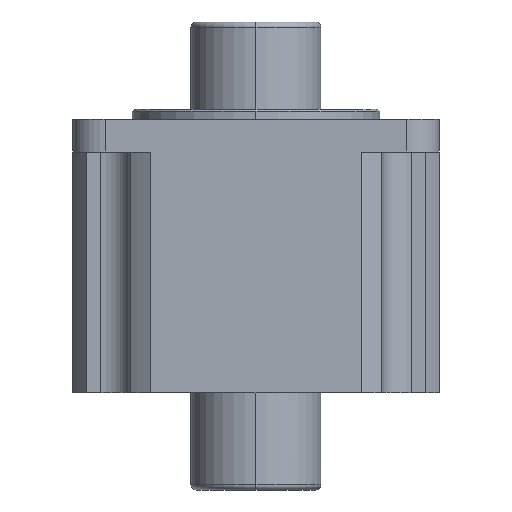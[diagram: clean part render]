
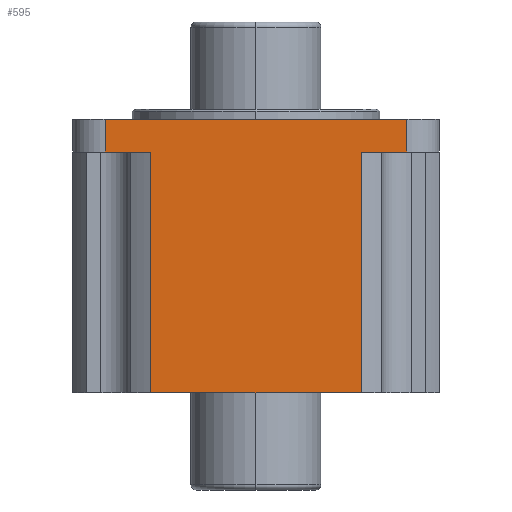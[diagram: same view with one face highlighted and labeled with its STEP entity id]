
A CAD part, left-side view. The second image highlights one B-rep face of the part: STEP entity #595.
In plain terms, the highlighted planar face has unit normal (-1, 0, 0).
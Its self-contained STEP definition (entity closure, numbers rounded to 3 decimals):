
#54 = VECTOR ( 'NONE', #1552, 1000. ) ;
#60 = CARTESIAN_POINT ( 'NONE',  ( -28.2, 23.2, -1.6 ) ) ;
#148 = CARTESIAN_POINT ( 'NONE',  ( -28.2, 16.156, -43.6 ) ) ;
#217 = AXIS2_PLACEMENT_3D ( 'NONE', #703, #494, #284 ) ;
#265 = LINE ( 'NONE', #1919, #771 ) ;
#270 = EDGE_CURVE ( 'NONE', #629, #1176, #1783, .T. ) ;
#275 = VECTOR ( 'NONE', #1004, 1000. ) ;
#284 = DIRECTION ( 'NONE',  ( 0., 1., 0. ) ) ;
#446 = EDGE_CURVE ( 'NONE', #1158, #1986, #1643, .T. ) ;
#456 = VECTOR ( 'NONE', #524, 1000. ) ;
#481 = DIRECTION ( 'NONE',  ( 0., 0., 1. ) ) ;
#492 = EDGE_CURVE ( 'NONE', #1176, #1158, #900, .T. ) ;
#493 = VERTEX_POINT ( 'NONE', #60 ) ;
#494 = DIRECTION ( 'NONE',  ( 1., 0., 0. ) ) ;
#524 = DIRECTION ( 'NONE',  ( 0., 0., 1. ) ) ;
#563 = CARTESIAN_POINT ( 'NONE',  ( -28.2, 16.156, -6.6 ) ) ;
#582 = EDGE_CURVE ( 'NONE', #923, #939, #2000, .T. ) ;
#595 = ADVANCED_FACE ( 'NONE', ( #1533 ), #754, .F. ) ;
#613 = VECTOR ( 'NONE', #894, 1000. ) ;
#629 = VERTEX_POINT ( 'NONE', #1669 ) ;
#655 = CARTESIAN_POINT ( 'NONE',  ( -28.2, 23.2, -6.6 ) ) ;
#689 = CARTESIAN_POINT ( 'NONE',  ( -28.2, 16.156, -43.6 ) ) ;
#703 = CARTESIAN_POINT ( 'NONE',  ( -28.2, 28.2, -6.6 ) ) ;
#705 = VERTEX_POINT ( 'NONE', #1349 ) ;
#737 = CARTESIAN_POINT ( 'NONE',  ( -28.2, -23.2, -6.6 ) ) ;
#754 = PLANE ( 'NONE',  #217 ) ;
#771 = VECTOR ( 'NONE', #1703, 1000. ) ;
#894 = DIRECTION ( 'NONE',  ( 0., 1., 0. ) ) ;
#898 = CARTESIAN_POINT ( 'NONE',  ( -28.2, -23.2, -6.6 ) ) ;
#900 = LINE ( 'NONE', #689, #1050 ) ;
#923 = VERTEX_POINT ( 'NONE', #898 ) ;
#939 = VERTEX_POINT ( 'NONE', #1484 ) ;
#1003 = ORIENTED_EDGE ( 'NONE', *, *, #1721, .T. ) ;
#1004 = DIRECTION ( 'NONE',  ( 0., 1., 0. ) ) ;
#1050 = VECTOR ( 'NONE', #481, 1000. ) ;
#1104 = CARTESIAN_POINT ( 'NONE',  ( -28.2, 28.2, -1.6 ) ) ;
#1158 = VERTEX_POINT ( 'NONE', #563 ) ;
#1162 = LINE ( 'NONE', #737, #456 ) ;
#1176 = VERTEX_POINT ( 'NONE', #148 ) ;
#1211 = EDGE_LOOP ( 'NONE', ( #1804, #1003, #2017, #1438, #1392, #1725, #1709, #1696 ) ) ;
#1222 = CARTESIAN_POINT ( 'NONE',  ( -28.2, 28.2, -6.6 ) ) ;
#1321 = LINE ( 'NONE', #1104, #613 ) ;
#1349 = CARTESIAN_POINT ( 'NONE',  ( -28.2, -23.2, -1.6 ) ) ;
#1351 = DIRECTION ( 'NONE',  ( 0., 1., 0. ) ) ;
#1392 = ORIENTED_EDGE ( 'NONE', *, *, #446, .F. ) ;
#1438 = ORIENTED_EDGE ( 'NONE', *, *, #1755, .T. ) ;
#1484 = CARTESIAN_POINT ( 'NONE',  ( -28.2, -16.156, -6.6 ) ) ;
#1507 = VECTOR ( 'NONE', #1572, 1000. ) ;
#1533 = FACE_OUTER_BOUND ( 'NONE', #1211, .T. ) ;
#1552 = DIRECTION ( 'NONE',  ( 0., 1., 0. ) ) ;
#1567 = CARTESIAN_POINT ( 'NONE',  ( -28.2, 0., -43.6 ) ) ;
#1572 = DIRECTION ( 'NONE',  ( 0., 0., 1. ) ) ;
#1598 = EDGE_CURVE ( 'NONE', #629, #939, #2019, .T. ) ;
#1643 = LINE ( 'NONE', #1222, #275 ) ;
#1669 = CARTESIAN_POINT ( 'NONE',  ( -28.2, -16.156, -43.6 ) ) ;
#1696 = ORIENTED_EDGE ( 'NONE', *, *, #1598, .T. ) ;
#1703 = DIRECTION ( 'NONE',  ( 0., 0., -1. ) ) ;
#1709 = ORIENTED_EDGE ( 'NONE', *, *, #270, .F. ) ;
#1721 = EDGE_CURVE ( 'NONE', #923, #705, #1162, .T. ) ;
#1725 = ORIENTED_EDGE ( 'NONE', *, *, #492, .F. ) ;
#1735 = EDGE_CURVE ( 'NONE', #705, #493, #1321, .T. ) ;
#1755 = EDGE_CURVE ( 'NONE', #493, #1986, #265, .T. ) ;
#1771 = CARTESIAN_POINT ( 'NONE',  ( -28.2, 28.2, -6.6 ) ) ;
#1783 = LINE ( 'NONE', #1567, #1898 ) ;
#1789 = CARTESIAN_POINT ( 'NONE',  ( -28.2, -16.156, -43.6 ) ) ;
#1804 = ORIENTED_EDGE ( 'NONE', *, *, #582, .F. ) ;
#1898 = VECTOR ( 'NONE', #1351, 1000. ) ;
#1919 = CARTESIAN_POINT ( 'NONE',  ( -28.2, 23.2, -6.6 ) ) ;
#1986 = VERTEX_POINT ( 'NONE', #655 ) ;
#2000 = LINE ( 'NONE', #1771, #54 ) ;
#2017 = ORIENTED_EDGE ( 'NONE', *, *, #1735, .T. ) ;
#2019 = LINE ( 'NONE', #1789, #1507 ) ;
